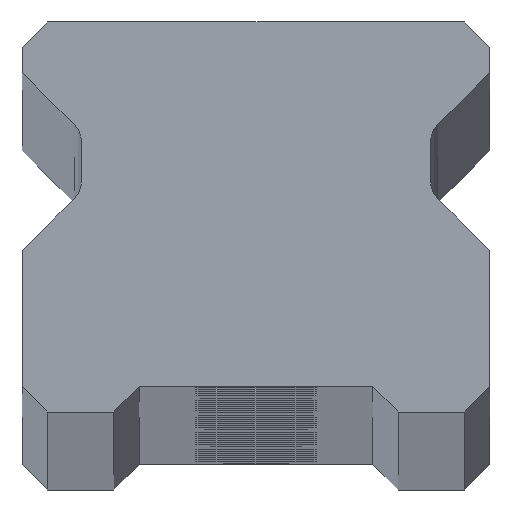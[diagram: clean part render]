
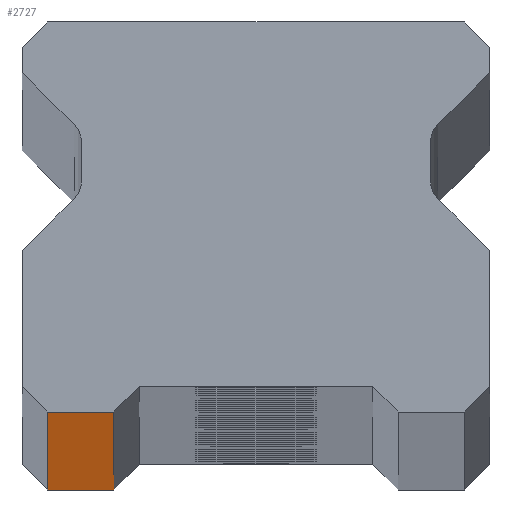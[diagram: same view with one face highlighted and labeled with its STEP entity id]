
A CAD part, top view. The second image highlights one B-rep face of the part: STEP entity #2727.
In plain terms, the highlighted planar face has unit normal (0, -1, 0).
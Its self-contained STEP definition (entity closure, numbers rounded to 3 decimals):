
#152 = CARTESIAN_POINT ( 'NONE',  ( -10.25, 0., 1100. ) ) ;
#741 = VERTEX_POINT ( 'NONE', #2840 ) ;
#796 = AXIS2_PLACEMENT_3D ( 'NONE', #2597, #3205, #6192 ) ;
#1179 = VERTEX_POINT ( 'NONE', #5742 ) ;
#1283 = DIRECTION ( 'NONE',  ( 1., 0., 0. ) ) ;
#1877 = CARTESIAN_POINT ( 'NONE',  ( -10.25, 0., -1100. ) ) ;
#1901 = DIRECTION ( 'NONE',  ( 1., 0., 0. ) ) ;
#2089 = ORIENTED_EDGE ( 'NONE', *, *, #5878, .T. ) ;
#2212 = LINE ( 'NONE', #4950, #2590 ) ;
#2590 = VECTOR ( 'NONE', #1901, 1000. ) ;
#2597 = CARTESIAN_POINT ( 'NONE',  ( 11.5, 0., 1100. ) ) ;
#2727 = ADVANCED_FACE ( 'NONE', ( #7079 ), #6572, .F. ) ;
#2802 = VECTOR ( 'NONE', #7264, 1000. ) ;
#2840 = CARTESIAN_POINT ( 'NONE',  ( -7., 0., -1100. ) ) ;
#3053 = ORIENTED_EDGE ( 'NONE', *, *, #6368, .T. ) ;
#3059 = CARTESIAN_POINT ( 'NONE',  ( -7., 0., 1100. ) ) ;
#3205 = DIRECTION ( 'NONE',  ( 0., 1., 0. ) ) ;
#3625 = EDGE_LOOP ( 'NONE', ( #6971, #2089, #7407, #3053 ) ) ;
#4013 = VECTOR ( 'NONE', #1283, 1000. ) ;
#4110 = VERTEX_POINT ( 'NONE', #1877 ) ;
#4186 = VECTOR ( 'NONE', #6730, 1000. ) ;
#4298 = CARTESIAN_POINT ( 'NONE',  ( 11.5, 0., 1100. ) ) ;
#4835 = CARTESIAN_POINT ( 'NONE',  ( -7., 0., -1100. ) ) ;
#4950 = CARTESIAN_POINT ( 'NONE',  ( 11.5, 0., -1100. ) ) ;
#5742 = CARTESIAN_POINT ( 'NONE',  ( -10.25, 0., 1100. ) ) ;
#5825 = EDGE_CURVE ( 'NONE', #1179, #6465, #6886, .T. ) ;
#5878 = EDGE_CURVE ( 'NONE', #741, #6465, #6605, .T. ) ;
#6192 = DIRECTION ( 'NONE',  ( -1., 0., 0. ) ) ;
#6368 = EDGE_CURVE ( 'NONE', #1179, #4110, #6786, .T. ) ;
#6465 = VERTEX_POINT ( 'NONE', #3059 ) ;
#6572 = PLANE ( 'NONE',  #796 ) ;
#6605 = LINE ( 'NONE', #4835, #2802 ) ;
#6730 = DIRECTION ( 'NONE',  ( 0., 0., -1. ) ) ;
#6786 = LINE ( 'NONE', #152, #4186 ) ;
#6886 = LINE ( 'NONE', #4298, #4013 ) ;
#6967 = EDGE_CURVE ( 'NONE', #4110, #741, #2212, .T. ) ;
#6971 = ORIENTED_EDGE ( 'NONE', *, *, #6967, .T. ) ;
#7079 = FACE_OUTER_BOUND ( 'NONE', #3625, .T. ) ;
#7264 = DIRECTION ( 'NONE',  ( 0., 0., 1. ) ) ;
#7407 = ORIENTED_EDGE ( 'NONE', *, *, #5825, .F. ) ;
